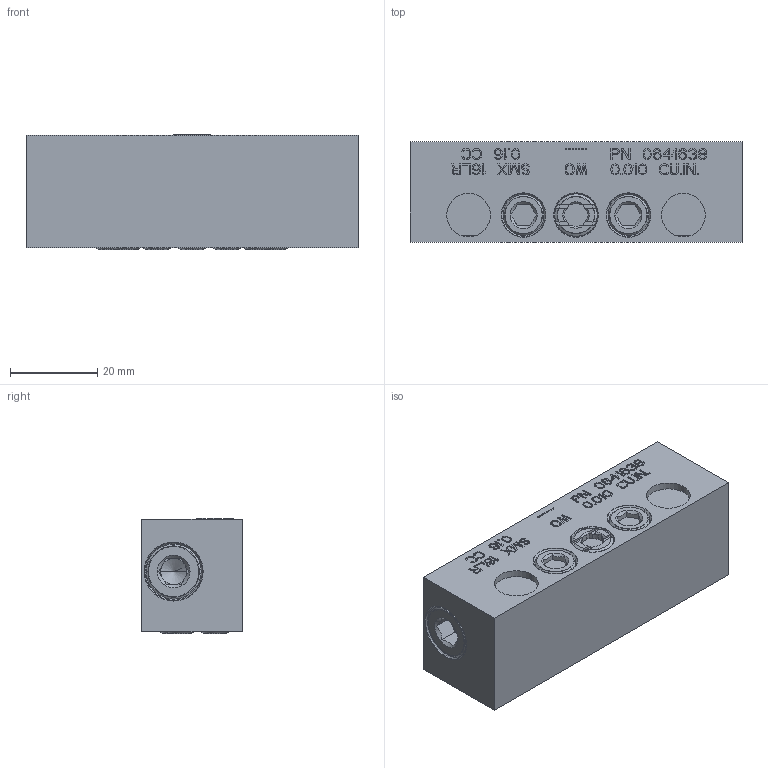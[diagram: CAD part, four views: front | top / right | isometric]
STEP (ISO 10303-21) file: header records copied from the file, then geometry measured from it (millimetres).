
FILE_DESCRIPTION((''),'2;1');
FILE_NAME('0641638_SMX_16LR','2023-07-21T11:55:12',('pietro.masciave'),(''),'CREO PARAMETRIC BY PTC INC, 2022281','CREO PARAMETRIC BY PTC INC, 2022281','');
FILE_SCHEMA(('CONFIG_CONTROL_DESIGN'));
Length unit declared in the file: millimetre
Products named in the file (1): 0641638_SMX_16LR
Bounding box: 76 x 23 x 26.33 mm (x, y, z)
Volume: 44005 mm3; surface area: 12668.1 mm2
Topology: 1 solids, 14 shells, 1381 faces, 3818 edges, 2537 vertices
Faces by surface type: plane 1205, cylinder 110, cone 44, torus 22
Entity records: 44582 total; most frequent: CARTESIAN_POINT 9060, ORIENTED_EDGE 7588, DIRECTION 6859, EDGE_CURVE 3814, VECTOR 3379, LINE 3379, VERTEX_POINT 2537, AXIS2_PLACEMENT_3D 1740
